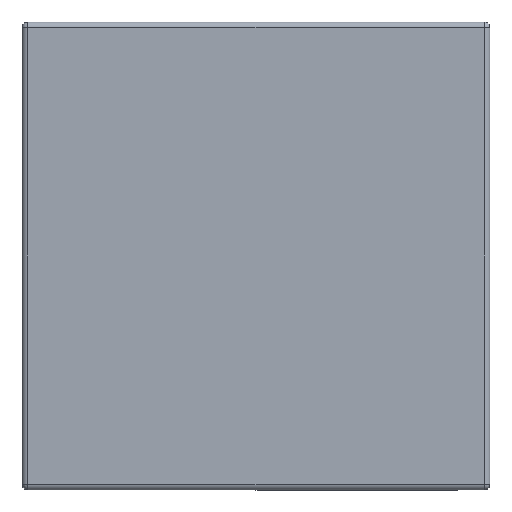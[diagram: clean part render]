
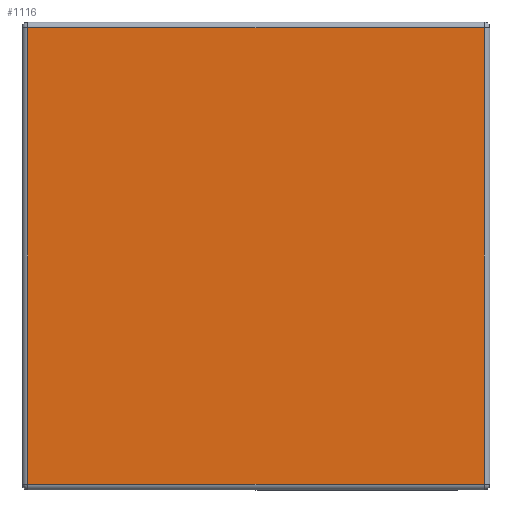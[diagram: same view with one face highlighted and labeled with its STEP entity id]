
A CAD part, front view. The second image highlights one B-rep face of the part: STEP entity #1116.
In plain terms, the highlighted planar face has unit normal (0, -1, 0).
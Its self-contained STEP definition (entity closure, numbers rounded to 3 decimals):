
#17 = VECTOR ( 'NONE', #270, 1000. ) ;
#40 = ORIENTED_EDGE ( 'NONE', *, *, #291, .T. ) ;
#144 = ORIENTED_EDGE ( 'NONE', *, *, #858, .T. ) ;
#157 = DIRECTION ( 'NONE',  ( 0., 0., 1. ) ) ;
#160 = VECTOR ( 'NONE', #652, 1000. ) ;
#198 = EDGE_LOOP ( 'NONE', ( #1037, #144, #40, #1009 ) ) ;
#208 = AXIS2_PLACEMENT_3D ( 'NONE', #935, #391, #522 ) ;
#270 = DIRECTION ( 'NONE',  ( 1., 0., 0. ) ) ;
#291 = EDGE_CURVE ( 'NONE', #874, #1141, #1360, .T. ) ;
#391 = DIRECTION ( 'NONE',  ( 0., 1., 0. ) ) ;
#408 = DIRECTION ( 'NONE',  ( -1., 0., 0. ) ) ;
#423 = CARTESIAN_POINT ( 'NONE',  ( -39., 0., 39. ) ) ;
#441 = VERTEX_POINT ( 'NONE', #778 ) ;
#522 = DIRECTION ( 'NONE',  ( 0., 0., 1. ) ) ;
#540 = CARTESIAN_POINT ( 'NONE',  ( -39., 0., 0. ) ) ;
#561 = VERTEX_POINT ( 'NONE', #576 ) ;
#576 = CARTESIAN_POINT ( 'NONE',  ( 39., 0., 39. ) ) ;
#600 = PLANE ( 'NONE',  #208 ) ;
#607 = EDGE_CURVE ( 'NONE', #1141, #441, #817, .T. ) ;
#652 = DIRECTION ( 'NONE',  ( 0., 0., -1. ) ) ;
#756 = VECTOR ( 'NONE', #408, 1000. ) ;
#778 = CARTESIAN_POINT ( 'NONE',  ( 39., 0., -39. ) ) ;
#793 = CARTESIAN_POINT ( 'NONE',  ( 39., 0., 0. ) ) ;
#817 = LINE ( 'NONE', #1121, #17 ) ;
#858 = EDGE_CURVE ( 'NONE', #561, #874, #1034, .T. ) ;
#874 = VERTEX_POINT ( 'NONE', #423 ) ;
#935 = CARTESIAN_POINT ( 'NONE',  ( 0., 0., 0. ) ) ;
#966 = LINE ( 'NONE', #793, #1032 ) ;
#1001 = EDGE_CURVE ( 'NONE', #441, #561, #966, .T. ) ;
#1009 = ORIENTED_EDGE ( 'NONE', *, *, #607, .T. ) ;
#1032 = VECTOR ( 'NONE', #157, 1000. ) ;
#1034 = LINE ( 'NONE', #1044, #756 ) ;
#1037 = ORIENTED_EDGE ( 'NONE', *, *, #1001, .T. ) ;
#1044 = CARTESIAN_POINT ( 'NONE',  ( 0., 0., 39. ) ) ;
#1062 = FACE_OUTER_BOUND ( 'NONE', #198, .T. ) ;
#1116 = ADVANCED_FACE ( 'NONE', ( #1062 ), #600, .F. ) ;
#1121 = CARTESIAN_POINT ( 'NONE',  ( 0., 0., -39. ) ) ;
#1141 = VERTEX_POINT ( 'NONE', #1155 ) ;
#1155 = CARTESIAN_POINT ( 'NONE',  ( -39., 0., -39. ) ) ;
#1360 = LINE ( 'NONE', #540, #160 ) ;
